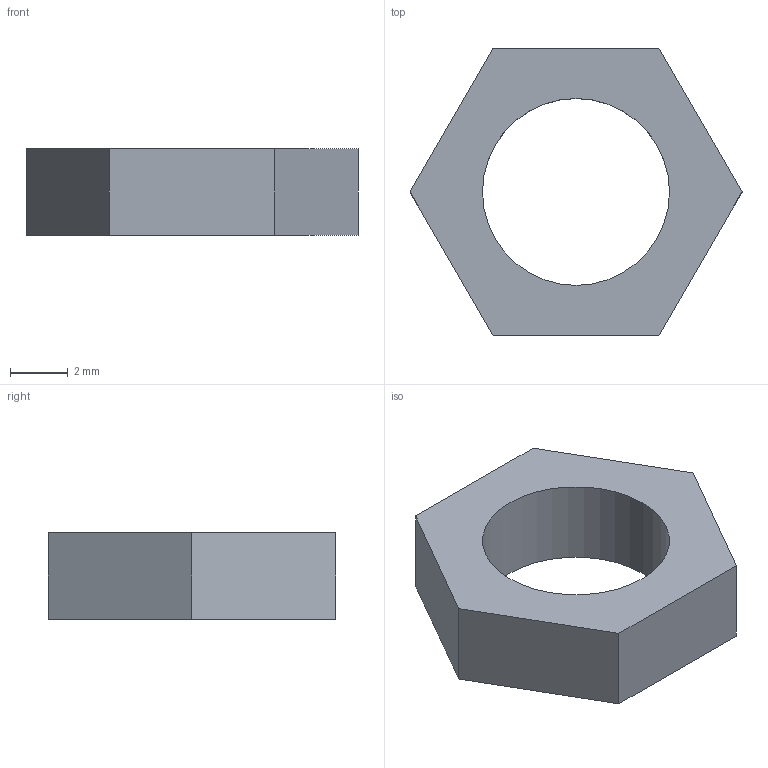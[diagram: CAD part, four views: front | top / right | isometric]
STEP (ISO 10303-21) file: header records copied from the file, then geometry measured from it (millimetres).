
FILE_DESCRIPTION (( 'STEP AP214' ), '1' );
FILE_NAME ('Switch_Nut.STEP', '2015-02-27T01:43:16', ( '' ), ( '' ), '', '', '' );
FILE_SCHEMA (( '' ));
Length unit declared in the file: millimetre
Products named in the file (1): Switch_Nut
Bounding box: 11.55 x 10 x 3 mm (x, y, z)
Volume: 160.3 mm3; surface area: 272 mm2
Topology: 1 solids, 1 shells, 10 faces, 24 edges, 16 vertices
Faces by surface type: plane 8, cylinder 2
Entity records: 319 total; most frequent: CARTESIAN_POINT 51, DIRECTION 50, ORIENTED_EDGE 48, EDGE_CURVE 24, LINE 20, VECTOR 20, VERTEX_POINT 16, AXIS2_PLACEMENT_3D 15
